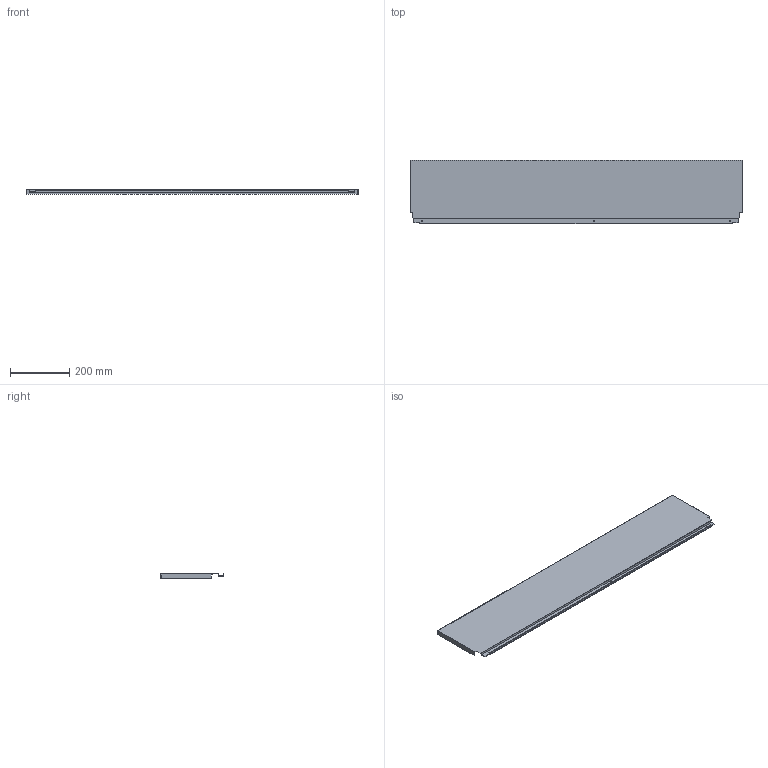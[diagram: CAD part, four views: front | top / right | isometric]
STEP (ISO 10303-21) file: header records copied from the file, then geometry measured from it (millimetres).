
FILE_DESCRIPTION (( 'STEP AP214' ), '1' );
FILE_NAME ('_DWD_XP Stahlrückwand_H214_KAB1200_S16.step', '2010-07-08T13:02:53', ( 'grass' ), ( '' ), 'SwSTEP 2.0', 'SolidWorks 2010', '' );
FILE_SCHEMA (( 'AUTOMOTIVE_DESIGN' ));
Length unit declared in the file: millimetre
Products named in the file (1): _DWD_XP Stahlrückwand_H214_KAB1200_S16
Bounding box: 1117 x 214.58 x 16 mm (x, y, z)
Volume: 264140.2 mm3; surface area: 555993.5 mm2
Topology: 1 solids, 1 shells, 46 faces, 132 edges, 88 vertices
Faces by surface type: plane 40, cylinder 6
Entity records: 1534 total; most frequent: CARTESIAN_POINT 267, ORIENTED_EDGE 264, DIRECTION 238, EDGE_CURVE 132, LINE 120, VECTOR 120, VERTEX_POINT 88, AXIS2_PLACEMENT_3D 59
